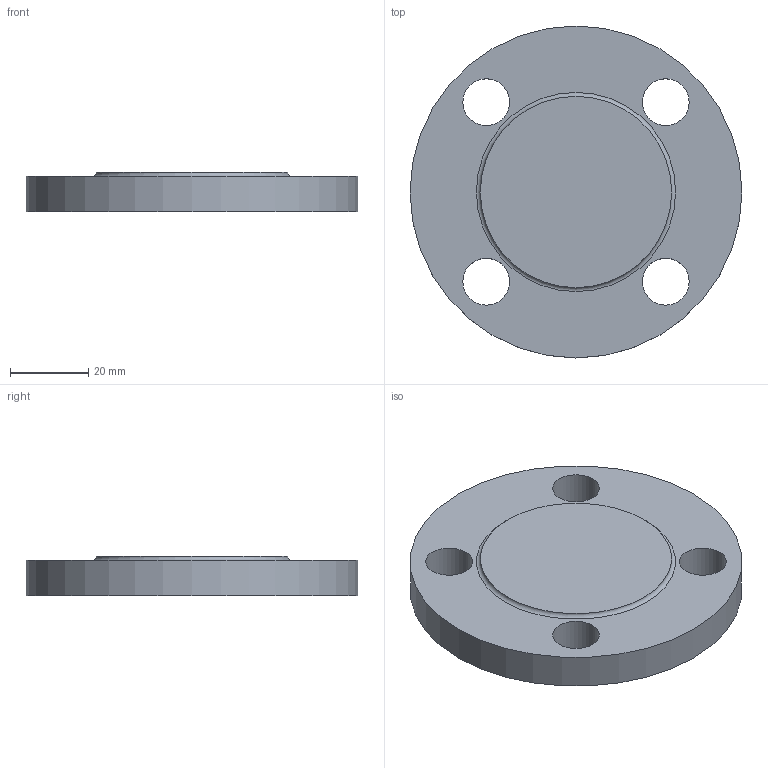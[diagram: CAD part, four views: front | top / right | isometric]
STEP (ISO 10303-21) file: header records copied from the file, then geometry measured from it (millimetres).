
FILE_DESCRIPTION(/* description */ (''),/* implementation_level */ '2;1');
FILE_NAME(/* name */ 'C:\Users\D\Documents\Inventor\HP\JIS\フランジ\JIS 5k bl rf\jis5k-bl-rf-20.stp',/* time_stamp */ '2024-09-12T16:52:28+09:00',/* author */ ('D'),/* organization */ (''),/* preprocessor_version */ 'ST-DEVELOPER v18',/* originating_system */ 'Autodesk Inventor 2020',/* authorisation */ '');
FILE_SCHEMA (('AUTOMOTIVE_DESIGN { 1 0 10303 214 3 1 1 }'));
Length unit declared in the file: millimetre
Products named in the file (1): jis5k-sop-rf-10
Bounding box: 85 x 85 x 10 mm (x, y, z)
Volume: 48918.1 mm3; surface area: 14293 mm2
Topology: 1 solids, 1 shells, 9 faces, 22 edges, 16 vertices
Faces by surface type: cylinder 5, plane 3, torus 1
Full cylindrical faces by diameter (mm): 12 x4, 85 x1
Entity records: 342 total; most frequent: DIRECTION 59, CARTESIAN_POINT 48, ORIENTED_EDGE 44, AXIS2_PLACEMENT_3D 27, EDGE_CURVE 22, EDGE_LOOP 18, CIRCLE 17, VERTEX_POINT 16
